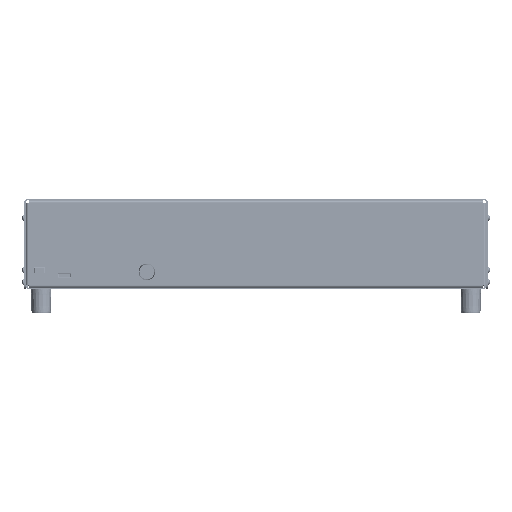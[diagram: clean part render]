
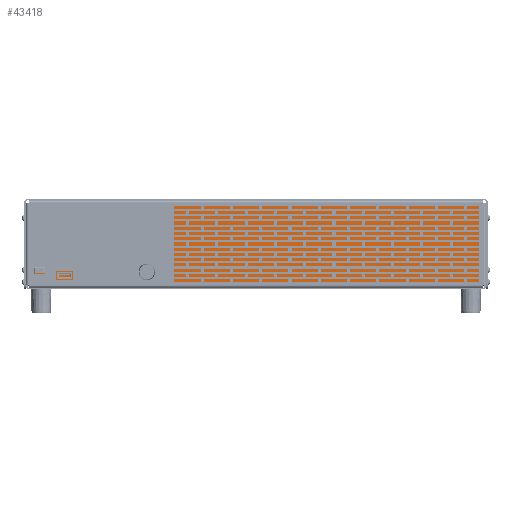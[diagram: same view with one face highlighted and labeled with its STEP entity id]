
A CAD part, front view. The second image highlights one B-rep face of the part: STEP entity #43418.
In plain terms, the highlighted planar face has unit normal (0, -1, 0).
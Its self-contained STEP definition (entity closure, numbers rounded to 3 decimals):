
#43418=ADVANCED_FACE('',(#89051),#89052,.F.);
#89051=FACE_OUTER_BOUND('',#153662,.T.);
#89052=PLANE('',#153663);
#153662=EDGE_LOOP('',(#281981,#281982,#281983,#281984));
#153663=AXIS2_PLACEMENT_3D('',#281985,#281986,#281987);
#281981=ORIENTED_EDGE('',*,*,#333924,.T.);
#281982=ORIENTED_EDGE('',*,*,#333920,.F.);
#281983=ORIENTED_EDGE('',*,*,#333925,.F.);
#281984=ORIENTED_EDGE('',*,*,#333917,.F.);
#281985=CARTESIAN_POINT('',(215.45,0.25,43.25));
#281986=DIRECTION('',(0.0,1.0,0.0));
#281987=DIRECTION('',(0.0,0.0,1.0));
#333917=EDGE_CURVE('',#408135,#408130,#408137,.T.);
#333920=EDGE_CURVE('',#408140,#408142,#408143,.F.);
#333924=EDGE_CURVE('',#408135,#408142,#408148,.T.);
#333925=EDGE_CURVE('',#408130,#408140,#408149,.F.);
#408130=VERTEX_POINT('',#516371);
#408135=VERTEX_POINT('',#516378);
#408137=LINE('',#516381,#516382);
#408140=VERTEX_POINT('',#516385);
#408142=VERTEX_POINT('',#516388);
#408143=LINE('',#516389,#516390);
#408148=LINE('',#516397,#516398);
#408149=LINE('',#516399,#516400);
#516371=CARTESIAN_POINT('',(432.9,0.25,83.5));
#516378=CARTESIAN_POINT('',(-2.,0.25,83.5));
#516381=CARTESIAN_POINT('',(215.45,0.25,83.5));
#516382=VECTOR('',#566574,1.0);
#516385=CARTESIAN_POINT('',(432.9,0.25,3.));
#516388=CARTESIAN_POINT('',(-2.,0.25,3.));
#516389=CARTESIAN_POINT('',(215.45,0.25,3.));
#516390=VECTOR('',#566576,1.0);
#516397=CARTESIAN_POINT('',(-2.,0.25,43.25));
#516398=VECTOR('',#566579,1.0);
#516399=CARTESIAN_POINT('',(432.9,0.25,43.25));
#516400=VECTOR('',#566580,1.0);
#566574=DIRECTION('',(1.0,0.0,0.0));
#566576=DIRECTION('',(1.0,0.0,0.0));
#566579=DIRECTION('',(0.0,0.0,-1.0));
#566580=DIRECTION('',(0.0,0.0,1.0));
